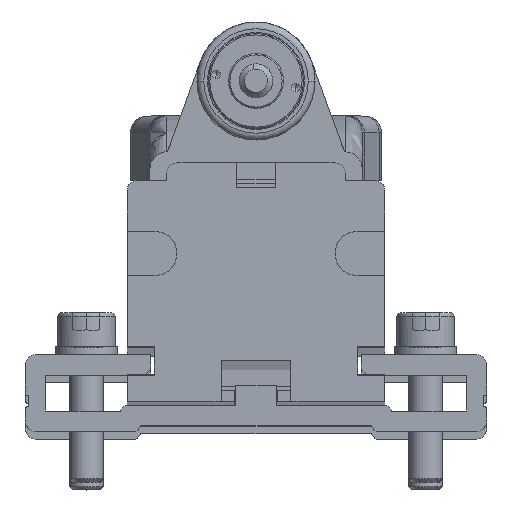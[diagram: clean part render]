
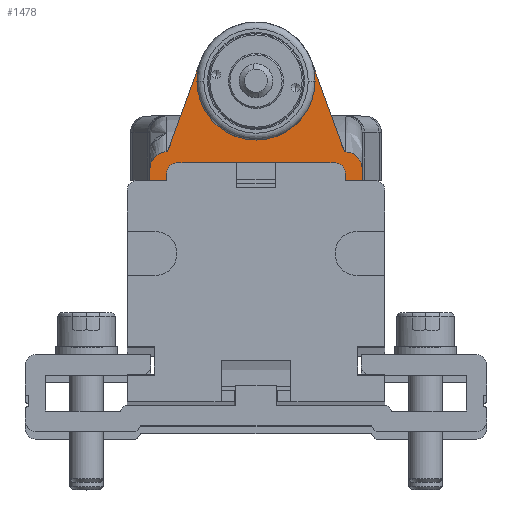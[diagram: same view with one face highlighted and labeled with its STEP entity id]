
A CAD part, top view. The second image highlights one B-rep face of the part: STEP entity #1478.
In plain terms, the highlighted planar face has unit normal (0, 0, 1).
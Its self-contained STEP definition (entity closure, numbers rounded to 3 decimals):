
#1478=ADVANCED_FACE('',(#3195),#3196,.T.);
#3195=FACE_OUTER_BOUND('',#5124,.T.);
#3196=PLANE('',#5125);
#5124=EDGE_LOOP('',(#11411,#11412,#11413,#11414,#11415,#11416,#11417,#11418,#11419,#11420,#11421,#11422,#11423,#11424,#11425,#11426,#11427,#11428,#11429,#11430,#11431,#11432));
#5125=AXIS2_PLACEMENT_3D('',#11433,#11434,#11435);
#11411=ORIENTED_EDGE('',*,*,#15031,.T.);
#11412=ORIENTED_EDGE('',*,*,#15032,.T.);
#11413=ORIENTED_EDGE('',*,*,#15033,.T.);
#11414=ORIENTED_EDGE('',*,*,#15034,.T.);
#11415=ORIENTED_EDGE('',*,*,#15035,.T.);
#11416=ORIENTED_EDGE('',*,*,#15036,.T.);
#11417=ORIENTED_EDGE('',*,*,#15037,.T.);
#11418=ORIENTED_EDGE('',*,*,#15038,.F.);
#11419=ORIENTED_EDGE('',*,*,#15039,.T.);
#11420=ORIENTED_EDGE('',*,*,#15040,.T.);
#11421=ORIENTED_EDGE('',*,*,#15041,.F.);
#11422=ORIENTED_EDGE('',*,*,#15042,.F.);
#11423=ORIENTED_EDGE('',*,*,#13426,.F.);
#11424=ORIENTED_EDGE('',*,*,#15043,.F.);
#11425=ORIENTED_EDGE('',*,*,#13439,.F.);
#11426=ORIENTED_EDGE('',*,*,#15044,.F.);
#11427=ORIENTED_EDGE('',*,*,#15045,.F.);
#11428=ORIENTED_EDGE('',*,*,#15046,.T.);
#11429=ORIENTED_EDGE('',*,*,#15047,.T.);
#11430=ORIENTED_EDGE('',*,*,#15048,.F.);
#11431=ORIENTED_EDGE('',*,*,#15049,.T.);
#11432=ORIENTED_EDGE('',*,*,#15050,.T.);
#11433=CARTESIAN_POINT('',(8.5,32.7,217.0));
#11434=DIRECTION('',(0.0,0.0,1.0));
#11435=DIRECTION('',(1.0,-0.0,0.0));
#13426=EDGE_CURVE('',#15829,#15832,#15833,.T.);
#13439=EDGE_CURVE('',#15856,#15858,#15859,.T.);
#15031=EDGE_CURVE('',#18240,#18241,#18242,.T.);
#15032=EDGE_CURVE('',#18241,#18243,#18244,.T.);
#15033=EDGE_CURVE('',#18243,#18245,#18246,.T.);
#15034=EDGE_CURVE('',#18245,#18247,#18248,.T.);
#15035=EDGE_CURVE('',#18247,#18249,#18250,.T.);
#15036=EDGE_CURVE('',#18249,#18251,#18252,.T.);
#15037=EDGE_CURVE('',#18251,#18253,#18254,.T.);
#15038=EDGE_CURVE('',#18255,#18253,#18256,.T.);
#15039=EDGE_CURVE('',#18255,#18257,#18258,.T.);
#15040=EDGE_CURVE('',#18257,#18259,#18260,.T.);
#15041=EDGE_CURVE('',#18261,#18259,#18262,.T.);
#15042=EDGE_CURVE('',#15832,#18261,#18263,.T.);
#15043=EDGE_CURVE('',#15858,#15829,#18264,.T.);
#15044=EDGE_CURVE('',#18265,#15856,#18266,.T.);
#15045=EDGE_CURVE('',#18267,#18265,#18268,.T.);
#15046=EDGE_CURVE('',#18267,#18269,#18270,.T.);
#15047=EDGE_CURVE('',#18269,#18271,#18272,.T.);
#15048=EDGE_CURVE('',#18273,#18271,#18274,.T.);
#15049=EDGE_CURVE('',#18273,#18275,#18276,.T.);
#15050=EDGE_CURVE('',#18275,#18240,#18277,.T.);
#15829=VERTEX_POINT('',#19330);
#15832=VERTEX_POINT('',#19334);
#15833=CIRCLE('',#19335,8.7);
#15856=VERTEX_POINT('',#19385);
#15858=VERTEX_POINT('',#19387);
#15859=CIRCLE('',#19388,8.7);
#18240=VERTEX_POINT('',#22789);
#18241=VERTEX_POINT('',#22790);
#18242=LINE('',#22791,#22792);
#18243=VERTEX_POINT('',#22793);
#18244=CIRCLE('',#22794,1.5);
#18245=VERTEX_POINT('',#22795);
#18246=LINE('',#22796,#22797);
#18247=VERTEX_POINT('',#22798);
#18248=CIRCLE('',#22799,1.5);
#18249=VERTEX_POINT('',#22800);
#18250=LINE('',#22801,#22802);
#18251=VERTEX_POINT('',#22803);
#18252=LINE('',#22804,#22805);
#18253=VERTEX_POINT('',#22806);
#18254=LINE('',#22807,#22808);
#18255=VERTEX_POINT('',#22809);
#18256=LINE('',#22810,#22811);
#18257=VERTEX_POINT('',#22812);
#18258=LINE('',#22813,#22814);
#18259=VERTEX_POINT('',#22815);
#18260=B_SPLINE_CURVE_WITH_KNOTS('',3,(#22816,#22817,#22818,#22819,#22820,#22821,#22822,#22823,#22824,#22825),.UNSPECIFIED.,.F.,.F.,(4,2,2,2,4),(1.12,1.22,1.315,1.406,1.492),.UNSPECIFIED.);
#18261=VERTEX_POINT('',#22826);
#18262=LINE('',#22827,#22828);
#18263=LINE('',#22829,#22830);
#18264=CIRCLE('',#22831,8.7);
#18265=VERTEX_POINT('',#22832);
#18266=LINE('',#22833,#22834);
#18267=VERTEX_POINT('',#22835);
#18268=LINE('',#22836,#22837);
#18269=VERTEX_POINT('',#22838);
#18270=B_SPLINE_CURVE_WITH_KNOTS('',3,(#22839,#22840,#22841,#22842,#22843,#22844,#22845,#22846,#22847,#22848),.UNSPECIFIED.,.F.,.F.,(4,2,2,2,4),(0.0,0.086,0.177,0.272,0.372),.UNSPECIFIED.);
#18271=VERTEX_POINT('',#22849);
#18272=LINE('',#22850,#22851);
#18273=VERTEX_POINT('',#22852);
#18274=LINE('',#22853,#22854);
#18275=VERTEX_POINT('',#22855);
#18276=LINE('',#22856,#22857);
#18277=LINE('',#22858,#22859);
#19330=CARTESIAN_POINT('',(27.7,47.3,217.0));
#19334=CARTESIAN_POINT('',(27.177,50.272,217.0));
#19335=AXIS2_PLACEMENT_3D('',#24709,#24710,#24711);
#19385=CARTESIAN_POINT('',(10.823,50.272,217.0));
#19387=CARTESIAN_POINT('',(10.3,47.3,217.0));
#19388=AXIS2_PLACEMENT_3D('',#24730,#24731,#24732);
#22789=CARTESIAN_POINT('',(5.85,32.7,217.0));
#22790=CARTESIAN_POINT('',(5.85,33.7,217.0));
#22791=CARTESIAN_POINT('',(5.85,32.7,217.0));
#22792=VECTOR('',#26734,1.0);
#22793=CARTESIAN_POINT('',(7.35,35.2,217.0));
#22794=AXIS2_PLACEMENT_3D('',#26735,#26736,#26737);
#22795=CARTESIAN_POINT('',(30.65,35.2,217.0));
#22796=CARTESIAN_POINT('',(7.35,35.2,217.0));
#22797=VECTOR('',#26738,23.3);
#22798=CARTESIAN_POINT('',(32.15,33.7,217.0));
#22799=AXIS2_PLACEMENT_3D('',#26739,#26740,#26741);
#22800=CARTESIAN_POINT('',(32.15,32.7,217.0));
#22801=CARTESIAN_POINT('',(32.15,33.7,217.0));
#22802=VECTOR('',#26742,1.0);
#22803=CARTESIAN_POINT('',(32.65,32.7,217.0));
#22804=CARTESIAN_POINT('',(32.15,32.7,217.0));
#22805=VECTOR('',#26743,0.5);
#22806=CARTESIAN_POINT('',(32.65,31.7,217.0));
#22807=CARTESIAN_POINT('',(32.65,32.7,217.0));
#22808=VECTOR('',#26744,1.0);
#22809=CARTESIAN_POINT('',(34.65,31.7,217.0));
#22810=CARTESIAN_POINT('',(34.65,31.7,217.0));
#22811=VECTOR('',#26745,2.);
#22812=CARTESIAN_POINT('',(34.65,34.236,217.0));
#22813=CARTESIAN_POINT('',(34.65,31.7,217.0));
#22814=VECTOR('',#26746,2.536);
#22815=CARTESIAN_POINT('',(32.25,36.86,217.0));
#22816=CARTESIAN_POINT('',(34.65,34.236,217.0));
#22817=CARTESIAN_POINT('',(34.65,34.57,217.0));
#22818=CARTESIAN_POINT('',(34.577,34.965,217.0));
#22819=CARTESIAN_POINT('',(34.338,35.572,217.0));
#22820=CARTESIAN_POINT('',(34.136,35.895,217.0));
#22821=CARTESIAN_POINT('',(33.71,36.344,217.0));
#22822=CARTESIAN_POINT('',(33.416,36.554,217.0));
#22823=CARTESIAN_POINT('',(32.876,36.789,217.0));
#22824=CARTESIAN_POINT('',(32.538,36.86,217.0));
#22825=CARTESIAN_POINT('',(32.25,36.86,217.0));
#22826=CARTESIAN_POINT('',(32.052,36.86,217.0));
#22827=CARTESIAN_POINT('',(32.052,36.86,217.0));
#22828=VECTOR('',#26747,0.198);
#22829=CARTESIAN_POINT('',(27.177,50.272,217.0));
#22830=VECTOR('',#26748,14.271);
#22831=AXIS2_PLACEMENT_3D('',#26749,#26750,#26751);
#22832=CARTESIAN_POINT('',(5.948,36.86,217.0));
#22833=CARTESIAN_POINT('',(5.948,36.86,217.0));
#22834=VECTOR('',#26752,14.27);
#22835=CARTESIAN_POINT('',(5.75,36.86,217.0));
#22836=CARTESIAN_POINT('',(5.75,36.86,217.0));
#22837=VECTOR('',#26753,0.198);
#22838=CARTESIAN_POINT('',(3.35,34.236,217.0));
#22839=CARTESIAN_POINT('',(5.75,36.86,217.0));
#22840=CARTESIAN_POINT('',(5.462,36.86,217.0));
#22841=CARTESIAN_POINT('',(5.124,36.789,217.0));
#22842=CARTESIAN_POINT('',(4.584,36.554,217.0));
#22843=CARTESIAN_POINT('',(4.29,36.344,217.0));
#22844=CARTESIAN_POINT('',(3.864,35.895,217.0));
#22845=CARTESIAN_POINT('',(3.662,35.572,217.0));
#22846=CARTESIAN_POINT('',(3.423,34.965,217.0));
#22847=CARTESIAN_POINT('',(3.35,34.57,217.0));
#22848=CARTESIAN_POINT('',(3.35,34.236,217.0));
#22849=CARTESIAN_POINT('',(3.35,31.7,217.0));
#22850=CARTESIAN_POINT('',(3.35,34.236,217.0));
#22851=VECTOR('',#26754,2.536);
#22852=CARTESIAN_POINT('',(5.35,31.7,217.0));
#22853=CARTESIAN_POINT('',(5.35,31.7,217.0));
#22854=VECTOR('',#26755,2.0);
#22855=CARTESIAN_POINT('',(5.35,32.7,217.0));
#22856=CARTESIAN_POINT('',(5.35,31.7,217.0));
#22857=VECTOR('',#26756,1.0);
#22858=CARTESIAN_POINT('',(5.35,32.7,217.0));
#22859=VECTOR('',#26757,0.5);
#24709=CARTESIAN_POINT('',(19.,47.3,217.0));
#24710=DIRECTION('',(0.,0.,1.0));
#24711=DIRECTION('',(0.94,0.342,0.));
#24730=CARTESIAN_POINT('',(19.,47.3,217.0));
#24731=DIRECTION('',(0.,0.,1.0));
#24732=DIRECTION('',(0.94,0.342,0.));
#26734=DIRECTION('',(0.0,1.0,0.0));
#26735=CARTESIAN_POINT('',(7.35,33.7,217.0));
#26736=DIRECTION('',(0.0,0.0,-1.0));
#26737=DIRECTION('',(-1.0,0.0,0.0));
#26738=DIRECTION('',(1.0,0.0,0.0));
#26739=CARTESIAN_POINT('',(30.65,33.7,217.0));
#26740=DIRECTION('',(0.0,0.0,-1.0));
#26741=DIRECTION('',(1.0,0.0,0.0));
#26742=DIRECTION('',(0.0,-1.0,0.0));
#26743=DIRECTION('',(1.0,0.0,0.0));
#26744=DIRECTION('',(0.0,-1.0,0.0));
#26745=DIRECTION('',(-1.0,0.0,0.0));
#26746=DIRECTION('',(0.0,1.0,0.0));
#26747=DIRECTION('',(1.0,0.0,0.0));
#26748=DIRECTION('',(0.342,-0.94,0.));
#26749=CARTESIAN_POINT('',(19.,47.3,217.0));
#26750=DIRECTION('',(0.,0.,1.0));
#26751=DIRECTION('',(0.94,0.342,0.));
#26752=DIRECTION('',(0.342,0.94,0.0));
#26753=DIRECTION('',(1.0,0.0,0.0));
#26754=DIRECTION('',(0.0,-1.0,0.0));
#26755=DIRECTION('',(-1.0,0.0,0.0));
#26756=DIRECTION('',(0.0,1.0,0.0));
#26757=DIRECTION('',(1.0,0.0,0.0));
